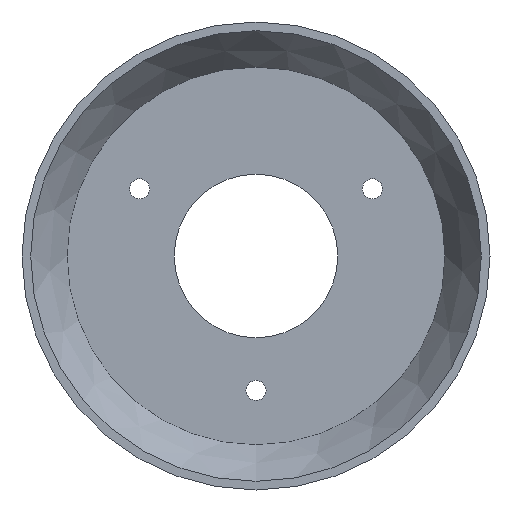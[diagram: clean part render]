
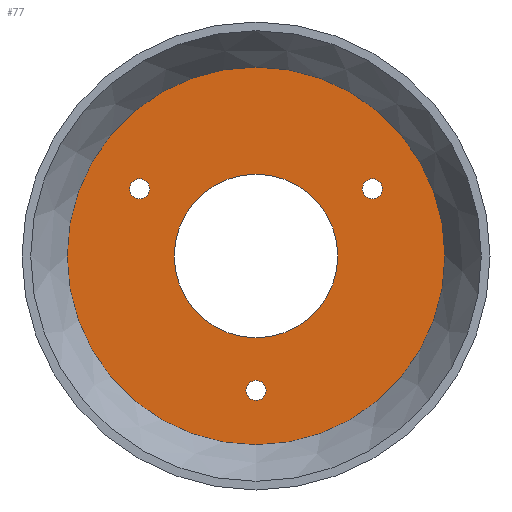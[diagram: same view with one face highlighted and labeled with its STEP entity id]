
A CAD part, front view. The second image highlights one B-rep face of the part: STEP entity #77.
In plain terms, the highlighted planar face has unit normal (0, -1, 0).
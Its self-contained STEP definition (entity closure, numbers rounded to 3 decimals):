
#77 = ADVANCED_FACE( '', ( #91, #92, #93, #94, #95 ), #96, .T. );
#91 = FACE_OUTER_BOUND( '', #124, .T. );
#92 = FACE_BOUND( '', #125, .T. );
#93 = FACE_BOUND( '', #126, .T. );
#94 = FACE_BOUND( '', #127, .T. );
#95 = FACE_BOUND( '', #128, .T. );
#96 = PLANE( '', #129 );
#124 = EDGE_LOOP( '', ( #161 ) );
#125 = EDGE_LOOP( '', ( #162 ) );
#126 = EDGE_LOOP( '', ( #163 ) );
#127 = EDGE_LOOP( '', ( #164 ) );
#128 = EDGE_LOOP( '', ( #165 ) );
#129 = AXIS2_PLACEMENT_3D( '', #166, #167, #168 );
#161 = ORIENTED_EDGE( '', *, *, #203, .T. );
#162 = ORIENTED_EDGE( '', *, *, #205, .T. );
#163 = ORIENTED_EDGE( '', *, *, #206, .T. );
#164 = ORIENTED_EDGE( '', *, *, #207, .T. );
#165 = ORIENTED_EDGE( '', *, *, #208, .F. );
#166 = CARTESIAN_POINT( '', ( 11., 8., 0. ) );
#167 = DIRECTION( '', ( 0., -1., 0. ) );
#168 = DIRECTION( '', ( 0., 0., -1. ) );
#203 = EDGE_CURVE( '', #216, #216, #217, .T. );
#205 = EDGE_CURVE( '', #220, #220, #221, .F. );
#206 = EDGE_CURVE( '', #222, #222, #223, .F. );
#207 = EDGE_CURVE( '', #224, #224, #225, .F. );
#208 = EDGE_CURVE( '', #226, #226, #227, .T. );
#216 = VERTEX_POINT( '', #240 );
#217 = CIRCLE( '', #241, 25.439 );
#220 = VERTEX_POINT( '', #244 );
#221 = CIRCLE( '', #245, 1.35 );
#222 = VERTEX_POINT( '', #246 );
#223 = CIRCLE( '', #247, 1.35 );
#224 = VERTEX_POINT( '', #248 );
#225 = CIRCLE( '', #249, 1.35 );
#226 = VERTEX_POINT( '', #250 );
#227 = CIRCLE( '', #251, 11. );
#240 = CARTESIAN_POINT( '', ( 0., 8., -25.439 ) );
#241 = AXIS2_PLACEMENT_3D( '', #265, #266, #267 );
#244 = CARTESIAN_POINT( '', ( 0., 8., -19.45 ) );
#245 = AXIS2_PLACEMENT_3D( '', #271, #272, #273 );
#246 = CARTESIAN_POINT( '', ( -15.675, 8., 7.7 ) );
#247 = AXIS2_PLACEMENT_3D( '', #274, #275, #276 );
#248 = CARTESIAN_POINT( '', ( 15.675, 8., 7.7 ) );
#249 = AXIS2_PLACEMENT_3D( '', #277, #278, #279 );
#250 = CARTESIAN_POINT( '', ( 0., 8., -11. ) );
#251 = AXIS2_PLACEMENT_3D( '', #280, #281, #282 );
#265 = CARTESIAN_POINT( '', ( 0., 8., 0. ) );
#266 = DIRECTION( '', ( 0., -1., 0. ) );
#267 = DIRECTION( '', ( 0., 0., -1. ) );
#271 = CARTESIAN_POINT( '', ( 0., 8., -18.1 ) );
#272 = DIRECTION( '', ( 0., -1., 0. ) );
#273 = DIRECTION( '', ( 0., 0., -1. ) );
#274 = CARTESIAN_POINT( '', ( -15.675, 8., 9.05 ) );
#275 = DIRECTION( '', ( 0., -1., 0. ) );
#276 = DIRECTION( '', ( 0., 0., -1. ) );
#277 = CARTESIAN_POINT( '', ( 15.675, 8., 9.05 ) );
#278 = DIRECTION( '', ( 0., -1., 0. ) );
#279 = DIRECTION( '', ( 0., 0., -1. ) );
#280 = CARTESIAN_POINT( '', ( 0., 8., 0. ) );
#281 = DIRECTION( '', ( 0., -1., 0. ) );
#282 = DIRECTION( '', ( 0., 0., -1. ) );
